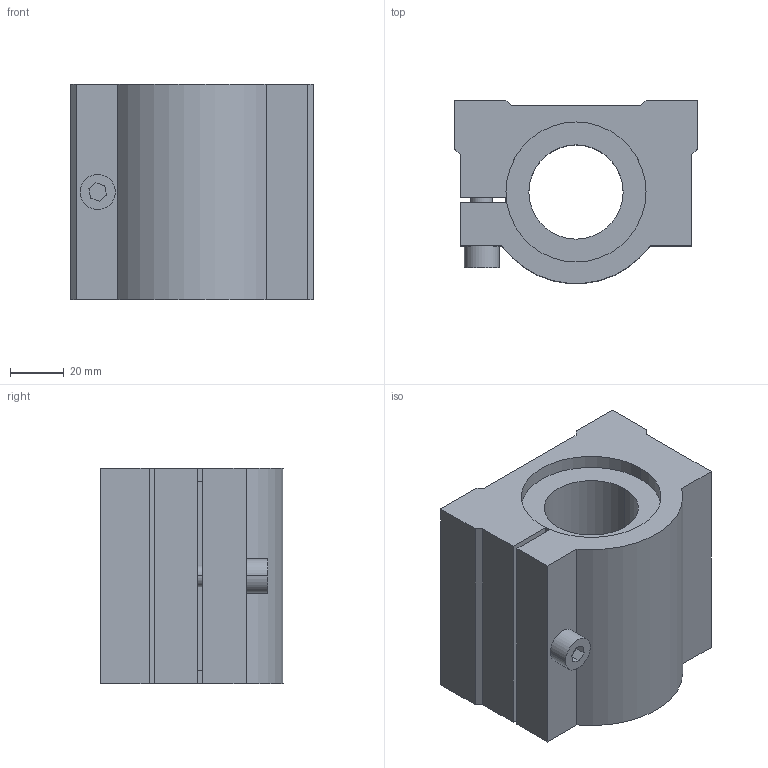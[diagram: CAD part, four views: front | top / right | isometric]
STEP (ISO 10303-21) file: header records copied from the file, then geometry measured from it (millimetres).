
FILE_DESCRIPTION((''),'2;1');
FILE_NAME('C:\Documents and Settings\ｿﾀﾀ蠑ｷ1\ｹﾙﾅﾁ ﾈｭｸ饅\ｺﾎﾇｰﾆﾄﾀﾏ\ﾁｦﾇｰ\SCJ__UU\SCJ35UU.stp','2005-06-22T17:49:58',('ｿﾀﾀ蠑ｷ1'),(''),'Autodesk Inventor 9','Autodesk Inventor 9','');
FILE_SCHEMA(('AUTOMOTIVE_DESIGN { 1 0 10303 214 1 1 1 1 }'));
Length unit declared in the file: millimetre
Products named in the file (1): SCJ__UU
Bounding box: 90 x 67.88 x 80 mm (x, y, z)
Volume: 321460.3 mm3; surface area: 45389.6 mm2
Topology: 1 solids, 1 shells, 56 faces, 142 edges, 88 vertices
Faces by surface type: plane 29, bspline 16, cylinder 11
Entity records: 1863 total; most frequent: CARTESIAN_POINT 551, ORIENTED_EDGE 268, DIRECTION 254, EDGE_CURVE 134, VECTOR 96, LINE 96, VERTEX_POINT 88, AXIS2_PLACEMENT_3D 79
